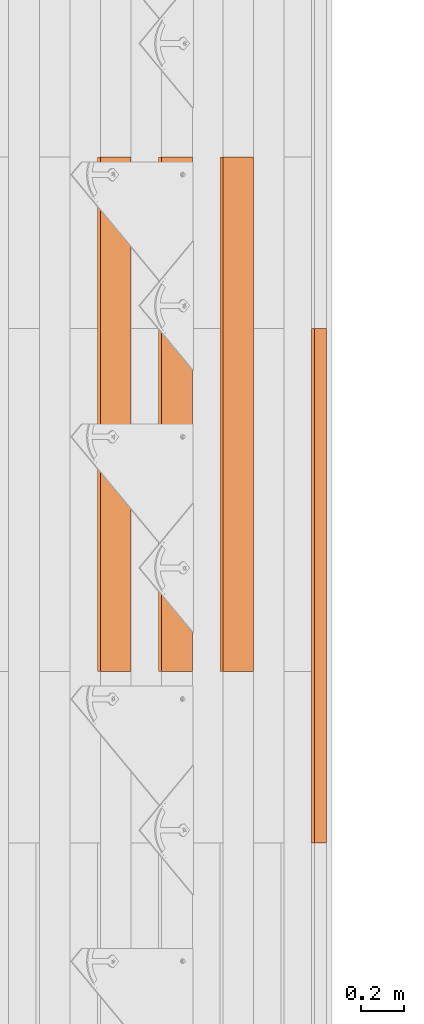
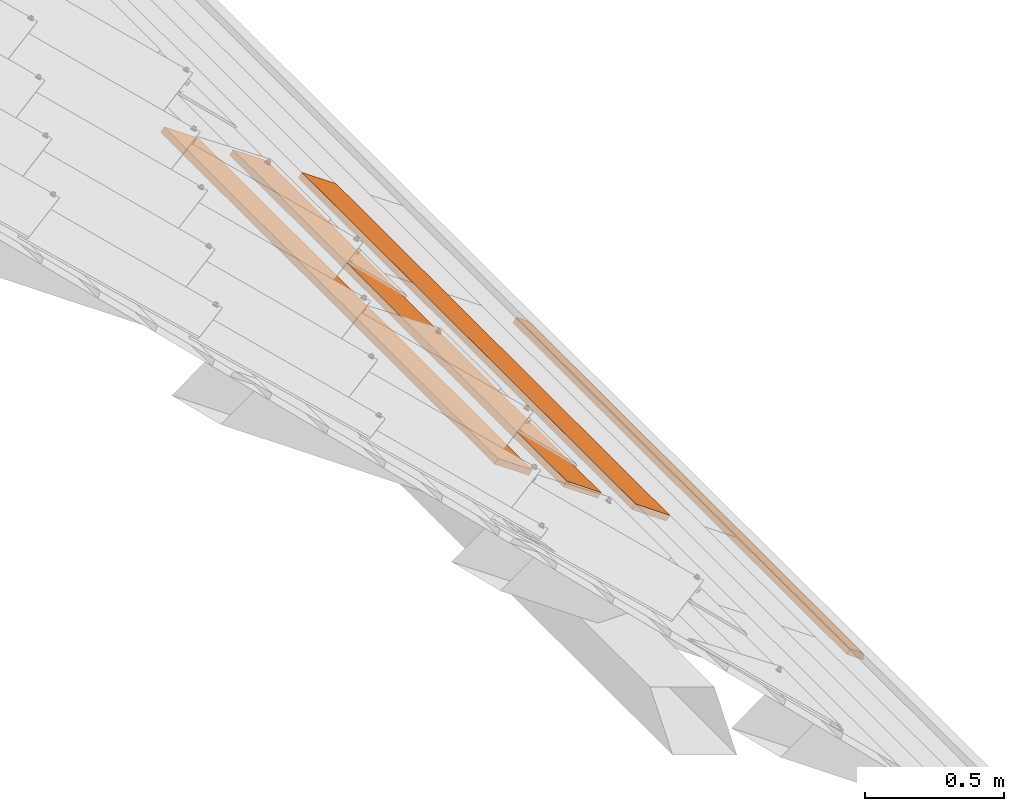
# One storey, part 103 of 151: 4 proxies, 1 element without a shape of its own.
"""IFC2X3 building model written with IfcOpenShell, lengths in millimetres."""

from ifc_helpers import new_model, entity, si_unit, converted_unit, derived_unit, direction, frame, frame_2d, origin, place, context, subcontext, project, spatial, polyline, rectangle, outline, extrude, source, transform, mapped, material, type_object, type_shapes, element, aggregate, save


model = new_model("IFC2X3")

# Units and contexts
model_context = context("Model", 3, precision=0.01, world=origin(), true_north=direction((6.12303176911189e-17, 1.0)))
body_context = subcontext(model_context, "Body", "Model", "MODEL_VIEW")
ifc_project = project(units=[si_unit("LENGTHUNIT", "METRE", prefix="MILLI"), si_unit("AREAUNIT", "SQUARE_METRE"), si_unit("VOLUMEUNIT", "CUBIC_METRE"), converted_unit("PLANEANGLEUNIT", "DEGREE", entity("IfcRatioMeasure", 0.0174532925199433), si_unit("PLANEANGLEUNIT", "RADIAN"), dimensions=[0, 0, 0, 0, 0, 0, 0]), si_unit("MASSUNIT", "GRAM", prefix="KILO"), derived_unit("MASSDENSITYUNIT", [(si_unit("MASSUNIT", "GRAM", prefix="KILO"), 1), (si_unit("LENGTHUNIT", "METRE"), -3)]), si_unit("TIMEUNIT", "SECOND"), si_unit("FREQUENCYUNIT", "HERTZ"), si_unit("THERMODYNAMICTEMPERATUREUNIT", "DEGREE_CELSIUS"), derived_unit("THERMALTRANSMITTANCEUNIT", [(si_unit("MASSUNIT", "GRAM", prefix="KILO"), 1), (si_unit("THERMODYNAMICTEMPERATUREUNIT", "KELVIN"), -1), (si_unit("TIMEUNIT", "SECOND"), -3)]), derived_unit("VOLUMETRICFLOWRATEUNIT", [(si_unit("LENGTHUNIT", "METRE"), 3), (si_unit("TIMEUNIT", "SECOND"), -1)]), si_unit("ELECTRICCURRENTUNIT", "AMPERE"), si_unit("ELECTRICVOLTAGEUNIT", "VOLT"), si_unit("POWERUNIT", "WATT"), si_unit("FORCEUNIT", "NEWTON", prefix="KILO"), si_unit("ILLUMINANCEUNIT", "LUX"), si_unit("LUMINOUSFLUXUNIT", "LUMEN"), si_unit("LUMINOUSINTENSITYUNIT", "CANDELA"), derived_unit("USERDEFINED", [(si_unit("MASSUNIT", "GRAM", prefix="KILO"), -1), (si_unit("LENGTHUNIT", "METRE"), -2), (si_unit("TIMEUNIT", "SECOND"), 3), (si_unit("LUMINOUSFLUXUNIT", "LUMEN"), 1)]), derived_unit("LINEARVELOCITYUNIT", [(si_unit("LENGTHUNIT", "METRE"), 1), (si_unit("TIMEUNIT", "SECOND"), -1)]), si_unit("PRESSUREUNIT", "PASCAL"), derived_unit("USERDEFINED", [(si_unit("LENGTHUNIT", "METRE"), -2), (si_unit("MASSUNIT", "GRAM", prefix="KILO"), 1), (si_unit("TIMEUNIT", "SECOND"), -2)])], contexts=[model_context])

# Site, building, storey
site_placement = place(None, origin())
site = spatial("IfcSite", under=ifc_project, at=site_placement, Name="Default", CompositionType="ELEMENT")
building_placement = place(site_placement, origin())
building = spatial("IfcBuilding", under=site, at=building_placement, CompositionType="ELEMENT")
storey_placement = place(building_placement, origin())
storey = spatial("IfcBuildingStorey", under=building, at=storey_placement, Name="Level 1", CompositionType="ELEMENT", Elevation=0.0)

# Assembly, proxies
assembly_placement = place(storey_placement, origin())
assembly = element("IfcElementAssembly", 1, at=assembly_placement, inside=storey, Name="Structural Framing Assembly:Roof Construction Assembly", ObjectType="Structural Framing Assembly:Roof Construction Assembly", AssemblyPlace="NOTDEFINED", PredefinedType="USERDEFINED")
ifc_material = material(Name="Wood - Generic - Wood For Showcase")
building_element_proxy_type_1 = type_object("IfcBuildingElementProxyType", Name="Structural Framing 15", PredefinedType="NOTDEFINED", material=ifc_material)
shared_shape_1 = source(origin(), body_context, "Body", "SweptSolid", [
    extrude(rectangle(XDim=24.9999999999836, YDim=174.344679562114, at=frame_2d((2.97539770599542e-13, -4.2632564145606e-14), x_axis=(1.0, 0.0))), frame((1285.35601305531, 1525.55080214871, 2760.23940055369), z_axis=(0.0, 1.0, 0.0), x_axis=(0.573576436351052, 0.0, 0.819152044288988)), (0.0, 0.0, 1.0), 2400.0),
])
type_shapes(building_element_proxy_type_1, [shared_shape_1])
proxy_1_placement = place(assembly_placement, frame((2913.78388459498, -4870.0, -2000.0)))
proxy_1 = element("IfcBuildingElementProxy", 2, at=proxy_1_placement, type_object=building_element_proxy_type_1, material=ifc_material, Name="Structural Framing 257:Structural Framing 15", ObjectType="Structural Framing 257:Structural Framing 15", context=body_context, shape_type="MappedRepresentation", body=[
    mapped(shared_shape_1, transform((0.0, 0.0, 0.0), scale=1.0)),
])
building_element_proxy_type_2 = type_object("IfcBuildingElementProxyType", Name="Structural Framing 15", PredefinedType="NOTDEFINED", material=ifc_material)
shared_shape_2 = source(origin(), body_context, "Body", "SweptSolid", [
    extrude(rectangle(XDim=24.9999999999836, YDim=174.344679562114, at=frame_2d((2.97539770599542e-13, -4.2632564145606e-14), x_axis=(1.0, 0.0))), frame((1285.35601305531, 1525.55080214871, 2760.23940055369), z_axis=(0.0, 1.0, 0.0), x_axis=(0.573576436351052, 0.0, 0.819152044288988)), (0.0, 0.0, 1.0), 2400.0),
])
type_shapes(building_element_proxy_type_2, [shared_shape_2])
proxy_2_placement = place(assembly_placement, frame((3199.41348594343, -4870.0, -2200.0)))
proxy_2 = element("IfcBuildingElementProxy", 3, at=proxy_2_placement, type_object=building_element_proxy_type_2, material=ifc_material, Name="Structural Framing 267:Structural Framing 15", ObjectType="Structural Framing 267:Structural Framing 15", context=body_context, shape_type="MappedRepresentation", body=[
    mapped(shared_shape_2, transform((0.0, 0.0, 0.0), scale=1.0)),
])
building_element_proxy_type_3 = type_object("IfcBuildingElementProxyType", Name="Structural Framing 15", PredefinedType="NOTDEFINED", material=ifc_material)
shared_shape_3 = source(origin(), body_context, "Body", "SweptSolid", [
    extrude(rectangle(XDim=24.9999999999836, YDim=174.344679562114, at=frame_2d((2.97539770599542e-13, -4.2632564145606e-14), x_axis=(1.0, 0.0))), frame((1285.35601305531, 1525.55080214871, 2760.23940055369), z_axis=(0.0, 1.0, 0.0), x_axis=(0.573576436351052, 0.0, 0.819152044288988)), (0.0, 0.0, 1.0), 2400.0),
])
type_shapes(building_element_proxy_type_3, [shared_shape_3])
proxy_3_placement = place(assembly_placement, frame((3485.04308729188, -4870.0, -2400.0)))
proxy_3 = element("IfcBuildingElementProxy", 4, at=proxy_3_placement, type_object=building_element_proxy_type_3, material=ifc_material, Name="Structural Framing 277:Structural Framing 15", ObjectType="Structural Framing 277:Structural Framing 15", context=body_context, shape_type="MappedRepresentation", body=[
    mapped(shared_shape_3, transform((0.0, 0.0, 0.0), scale=1.0)),
])
building_element_proxy_type_4 = type_object("IfcBuildingElementProxyType", Name="Structural Framing 15", PredefinedType="NOTDEFINED", material=ifc_material)
shared_shape_4 = source(origin(), body_context, "Body", "SweptSolid", [
    extrude(outline(polyline([(-12.4999999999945, -38.2231230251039), (12.4999999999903, -38.2231230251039), (12.4999999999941, 29.4705287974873), (-12.4999999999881, 46.9757172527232), (-12.4999999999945, -38.2231230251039)])), frame((5101.25878028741, -6511.94919785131, 88.3155178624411), z_axis=(0.0, 1.0, 0.0), x_axis=(0.57357643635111, 0.0, 0.819152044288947)), (0.0, 0.0, 1.0), 2400.00000000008),
])
type_shapes(building_element_proxy_type_4, [shared_shape_4])
proxy_4_placement = place(assembly_placement, frame((57.4878711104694, 2367.49999999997, 0.0)))
proxy_4 = element("IfcBuildingElementProxy", 5, at=proxy_4_placement, type_object=building_element_proxy_type_4, material=ifc_material, Name="Structural Framing 290:Structural Framing 15", ObjectType="Structural Framing 290:Structural Framing 15", context=body_context, shape_type="MappedRepresentation", body=[
    mapped(shared_shape_4, transform((0.0, 0.0, 0.0), scale=1.0)),
])
aggregate(assembly, [proxy_1, proxy_2, proxy_3, proxy_4])

save(model, "model.ifc")
